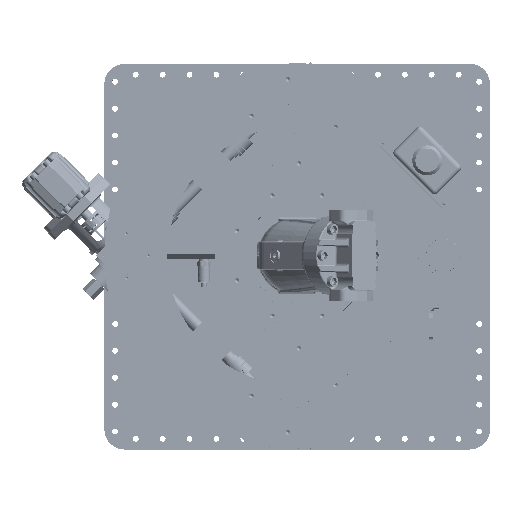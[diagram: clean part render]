
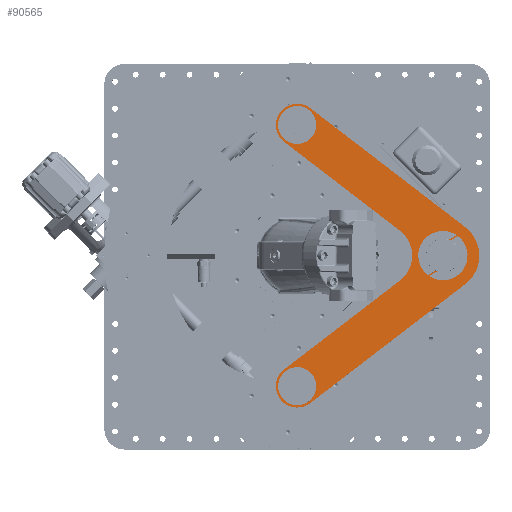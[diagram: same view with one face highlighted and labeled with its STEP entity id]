
A CAD part, top view. The second image highlights one B-rep face of the part: STEP entity #90565.
In plain terms, the highlighted planar face has unit normal (0, 0, 1).
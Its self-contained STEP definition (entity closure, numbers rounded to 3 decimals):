
#4455=FACE_BOUND('',#15940,.T.);
#4456=FACE_BOUND('',#15941,.T.);
#4457=FACE_BOUND('',#15942,.T.);
#6059=CIRCLE('',#96117,25.633);
#6061=CIRCLE('',#96121,25.633);
#6074=CIRCLE('',#96140,55.);
#6079=CIRCLE('',#96150,55.);
#6080=CIRCLE('',#96152,47.5);
#6081=CIRCLE('',#96153,80.);
#6082=CIRCLE('',#96154,47.5);
#6083=CIRCLE('',#96155,70.);
#6084=CIRCLE('',#96156,38.);
#6085=CIRCLE('',#96157,38.);
#6086=CIRCLE('',#96158,25.633);
#6087=CIRCLE('',#96159,25.633);
#10750=FACE_OUTER_BOUND('',#15939,.T.);
#15939=EDGE_LOOP('',(#58447,#58448,#58449,#58450,#58451,#58452,#58453,#58454));
#15940=EDGE_LOOP('',(#58455,#58456,#58457,#58458,#58459,#58460,#58461,#58462));
#15941=EDGE_LOOP('',(#58463,#58464));
#15942=EDGE_LOOP('',(#58465,#58466));
#21719=LINE('',#130790,#28118);
#21722=LINE('',#130802,#28121);
#21729=LINE('',#130822,#28128);
#21732=LINE('',#130832,#28131);
#21734=LINE('',#130839,#28133);
#21735=LINE('',#130843,#28134);
#21736=LINE('',#130847,#28135);
#21737=LINE('',#130851,#28136);
#28118=VECTOR('',#105043,10.);
#28121=VECTOR('',#105056,10.);
#28128=VECTOR('',#105075,10.);
#28131=VECTOR('',#105086,10.);
#28133=VECTOR('',#105094,10.);
#28134=VECTOR('',#105097,10.);
#28135=VECTOR('',#105100,10.);
#28136=VECTOR('',#105103,10.);
#35183=VERTEX_POINT('',#130725);
#35188=VERTEX_POINT('',#130743);
#35193=VERTEX_POINT('',#130771);
#35195=VERTEX_POINT('',#130774);
#35201=VERTEX_POINT('',#130788);
#35205=VERTEX_POINT('',#130801);
#35206=VERTEX_POINT('',#130807);
#35207=VERTEX_POINT('',#130808);
#35212=VERTEX_POINT('',#130820);
#35215=VERTEX_POINT('',#130831);
#35216=VERTEX_POINT('',#130837);
#35217=VERTEX_POINT('',#130838);
#35218=VERTEX_POINT('',#130840);
#35219=VERTEX_POINT('',#130842);
#35220=VERTEX_POINT('',#130844);
#35221=VERTEX_POINT('',#130846);
#35222=VERTEX_POINT('',#130848);
#35223=VERTEX_POINT('',#130850);
#35224=VERTEX_POINT('',#130855);
#35225=VERTEX_POINT('',#130856);
#44099=EDGE_CURVE('',#35188,#35183,#6059,.T.);
#44101=EDGE_CURVE('',#35183,#35188,#6061,.T.);
#44117=EDGE_CURVE('',#35193,#35201,#21719,.T.);
#44123=EDGE_CURVE('',#35205,#35195,#21722,.T.);
#44125=EDGE_CURVE('',#35201,#35205,#6074,.T.);
#44133=EDGE_CURVE('',#35206,#35212,#21729,.T.);
#44138=EDGE_CURVE('',#35215,#35207,#21732,.T.);
#44140=EDGE_CURVE('',#35212,#35215,#6079,.T.);
#44141=EDGE_CURVE('',#35216,#35217,#21734,.T.);
#44142=EDGE_CURVE('',#35217,#35218,#6080,.T.);
#44143=EDGE_CURVE('',#35218,#35219,#21735,.T.);
#44144=EDGE_CURVE('',#35219,#35220,#6081,.T.);
#44145=EDGE_CURVE('',#35220,#35221,#21736,.T.);
#44146=EDGE_CURVE('',#35221,#35222,#6082,.T.);
#44147=EDGE_CURVE('',#35222,#35223,#21737,.T.);
#44148=EDGE_CURVE('',#35223,#35216,#6083,.T.);
#44149=EDGE_CURVE('',#35195,#35206,#6084,.T.);
#44150=EDGE_CURVE('',#35207,#35193,#6085,.T.);
#44151=EDGE_CURVE('',#35224,#35225,#6086,.T.);
#44152=EDGE_CURVE('',#35225,#35224,#6087,.T.);
#58447=ORIENTED_EDGE('',*,*,#44141,.T.);
#58448=ORIENTED_EDGE('',*,*,#44142,.T.);
#58449=ORIENTED_EDGE('',*,*,#44143,.T.);
#58450=ORIENTED_EDGE('',*,*,#44144,.T.);
#58451=ORIENTED_EDGE('',*,*,#44145,.T.);
#58452=ORIENTED_EDGE('',*,*,#44146,.T.);
#58453=ORIENTED_EDGE('',*,*,#44147,.T.);
#58454=ORIENTED_EDGE('',*,*,#44148,.T.);
#58455=ORIENTED_EDGE('',*,*,#44117,.T.);
#58456=ORIENTED_EDGE('',*,*,#44125,.T.);
#58457=ORIENTED_EDGE('',*,*,#44123,.T.);
#58458=ORIENTED_EDGE('',*,*,#44149,.T.);
#58459=ORIENTED_EDGE('',*,*,#44133,.T.);
#58460=ORIENTED_EDGE('',*,*,#44140,.T.);
#58461=ORIENTED_EDGE('',*,*,#44138,.T.);
#58462=ORIENTED_EDGE('',*,*,#44150,.T.);
#58463=ORIENTED_EDGE('',*,*,#44151,.T.);
#58464=ORIENTED_EDGE('',*,*,#44152,.T.);
#58465=ORIENTED_EDGE('',*,*,#44101,.T.);
#58466=ORIENTED_EDGE('',*,*,#44099,.T.);
#82954=PLANE('',#96151);
#90565=ADVANCED_FACE('',(#10750,#4455,#4456,#4457),#82954,.T.);
#96117=AXIS2_PLACEMENT_3D('',#130755,#105003,#105004);
#96121=AXIS2_PLACEMENT_3D('',#130759,#105011,#105012);
#96140=AXIS2_PLACEMENT_3D('',#130805,#105060,#105061);
#96150=AXIS2_PLACEMENT_3D('',#130835,#105090,#105091);
#96151=AXIS2_PLACEMENT_3D('',#130836,#105092,#105093);
#96152=AXIS2_PLACEMENT_3D('',#130841,#105095,#105096);
#96153=AXIS2_PLACEMENT_3D('',#130845,#105098,#105099);
#96154=AXIS2_PLACEMENT_3D('',#130849,#105101,#105102);
#96155=AXIS2_PLACEMENT_3D('',#130852,#105104,#105105);
#96156=AXIS2_PLACEMENT_3D('',#130853,#105106,#105107);
#96157=AXIS2_PLACEMENT_3D('',#130854,#105108,#105109);
#96158=AXIS2_PLACEMENT_3D('',#130857,#105110,#105111);
#96159=AXIS2_PLACEMENT_3D('',#130858,#105112,#105113);
#105003=DIRECTION('center_axis',(0.,0.,
-1.));
#105004=DIRECTION('ref_axis',(0.,-1.,0.));
#105011=DIRECTION('center_axis',(0.,0.,
-1.));
#105012=DIRECTION('ref_axis',(0.,-1.,0.));
#105043=DIRECTION('',(-0.866,-0.5,0.));
#105056=DIRECTION('',(-0.866,-0.5,0.));
#105060=DIRECTION('center_axis',(0.,0.,
-1.));
#105061=DIRECTION('ref_axis',(0.866,-0.5,0.));
#105075=DIRECTION('',(0.866,0.5,0.));
#105086=DIRECTION('',(0.866,0.5,0.));
#105090=DIRECTION('center_axis',(0.,0.,
-1.));
#105091=DIRECTION('ref_axis',(0.866,-0.5,0.));
#105092=DIRECTION('center_axis',(0.,0.,
1.));
#105093=DIRECTION('ref_axis',(0.,-1.,0.));
#105094=DIRECTION('',(-0.793,-0.609,0.));
#105095=DIRECTION('center_axis',(0.,0.,
1.));
#105096=DIRECTION('ref_axis',(0.609,-0.793,0.));
#105097=DIRECTION('',(0.793,0.609,0.));
#105098=DIRECTION('center_axis',(0.,0.,
1.));
#105099=DIRECTION('ref_axis',(-0.609,0.793,0.));
#105100=DIRECTION('',(-0.793,0.609,0.));
#105101=DIRECTION('center_axis',(0.,0.,
1.));
#105102=DIRECTION('ref_axis',(-0.609,-0.793,0.));
#105103=DIRECTION('',(0.793,-0.609,0.));
#105104=DIRECTION('center_axis',(0.,0.,
-1.));
#105105=DIRECTION('ref_axis',(0.609,-0.793,0.));
#105106=DIRECTION('center_axis',(0.,0.,
-1.));
#105107=DIRECTION('ref_axis',(0.,-1.,0.));
#105108=DIRECTION('center_axis',(0.,0.,
-1.));
#105109=DIRECTION('ref_axis',(0.,-1.,0.));
#105110=DIRECTION('center_axis',(0.,0.,
-1.));
#105111=DIRECTION('ref_axis',(0.,-1.,0.));
#105112=DIRECTION('center_axis',(0.,0.,
-1.));
#105113=DIRECTION('ref_axis',(0.,-1.,0.));
#130725=CARTESIAN_POINT('',(2.483,-316.84,1400.5));
#130743=CARTESIAN_POINT('',(-0.514,-316.956,1400.5));
#130755=CARTESIAN_POINT('Origin',(0.,-291.328,
1400.5));
#130759=CARTESIAN_POINT('Origin',(0.,-291.328,
1400.5));
#130771=CARTESIAN_POINT('',(308.073,-34.022,1400.5));
#130774=CARTESIAN_POINT('',(338.515,35.515,1400.5));
#130788=CARTESIAN_POINT('',(291.477,-43.603,1400.5));
#130790=CARTESIAN_POINT('',(277.103,-51.902,1400.5));
#130801=CARTESIAN_POINT('',(355.858,45.528,1400.5));
#130802=CARTESIAN_POINT('',(288.353,6.554,1400.5));
#130805=CARTESIAN_POINT('Origin',(325.,0.,
1400.5));
#130807=CARTESIAN_POINT('',(341.927,34.021,1400.5));
#130808=CARTESIAN_POINT('',(311.485,-35.516,1400.5));
#130820=CARTESIAN_POINT('',(358.523,43.603,1400.5));
#130822=CARTESIAN_POINT('',(245.603,-21.592,1400.5));
#130831=CARTESIAN_POINT('',(294.143,-45.528,1400.5));
#130832=CARTESIAN_POINT('',(234.353,-80.048,1400.5));
#130835=CARTESIAN_POINT('Origin',(325.,0.,
1400.5));
#130836=CARTESIAN_POINT('Origin',(155.274,0.,
1400.5));
#130837=CARTESIAN_POINT('',(229.265,-55.535,1400.5));
#130838=CARTESIAN_POINT('',(-28.916,-253.644,1400.5));
#130839=CARTESIAN_POINT('',(-28.916,-253.644,1400.5));
#130840=CARTESIAN_POINT('',(28.916,-329.012,1400.5));
#130841=CARTESIAN_POINT('Origin',(0.,-291.328,
1400.5));
#130842=CARTESIAN_POINT('',(374.98,-63.469,1400.5));
#130843=CARTESIAN_POINT('',(374.98,-63.469,1400.5));
#130844=CARTESIAN_POINT('',(374.98,63.468,1400.5));
#130845=CARTESIAN_POINT('Origin',(326.279,0.,
1400.5));
#130846=CARTESIAN_POINT('',(28.917,329.012,1400.5));
#130847=CARTESIAN_POINT('',(28.917,329.012,1400.5));
#130848=CARTESIAN_POINT('',(-28.916,253.644,1400.5));
#130849=CARTESIAN_POINT('Origin',(0.,291.328,
1400.5));
#130850=CARTESIAN_POINT('',(229.265,55.535,1400.5));
#130851=CARTESIAN_POINT('',(229.265,55.535,1400.5));
#130852=CARTESIAN_POINT('Origin',(186.651,0.,
1400.5));
#130853=CARTESIAN_POINT('Origin',(325.,0.,
1400.5));
#130854=CARTESIAN_POINT('Origin',(325.,0.,
1400.5));
#130855=CARTESIAN_POINT('',(0.996,265.714,1400.5));
#130856=CARTESIAN_POINT('',(-2.003,265.773,1400.5));
#130857=CARTESIAN_POINT('Origin',(0.,291.328,
1400.5));
#130858=CARTESIAN_POINT('Origin',(0.,291.328,
1400.5));
